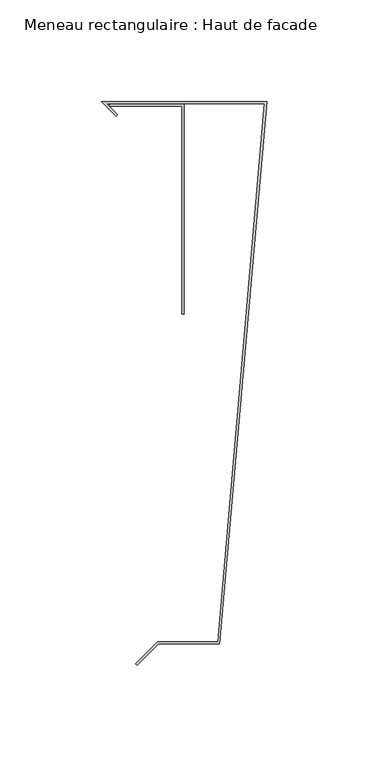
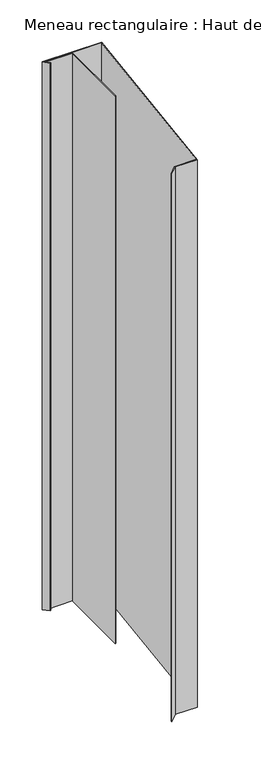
"""IFC4 building model written with IfcOpenShell, lengths in millimetres: member geometry, Meneau rectangulaire : Haut de facade."""

from ifc_helpers import new_model, si_unit, frame, origin, place, context, project, spatial, polyline, outline, extrude, source, transform, mapped, element, save


def meneau_rectangulaire_haut_de_facade_4f6a63c8(model_context):
    return source(origin(), model_context, "Body", "SweptSolid", [
        extrude(outline(polyline([(-24.0647895, -160.703755), (-1.0913085, 103.2), (-78.5857864, 103.2), (-73.2218254, 97.836039), (-73.9289322, 97.1289322), (-81.0, 104.2), (0.0, 104.2), (-23.1484584, -161.703755), (-53.1484584, -161.703755), (-63.7550601, -172.3103567), (-64.4621669, -171.6032499), (-53.5626719, -160.703755), (-24.0647895, -160.703755)])), frame((0.0, 0.0, -790.3759648), z_axis=(0.0, 0.0, 1.0), x_axis=(1.0, 0.0, 0.0)), (0.0, 0.0, 1.0), 790.3759648),
        extrude(outline(polyline([(-40.5477541, 102.9846816), (-40.5477541, 0.0384227), (-41.5477541, 0.0384227), (-41.5477541, 101.9846816), (-77.0752814, 101.9846816), (-77.0752814, 102.9846816), (-40.5477541, 102.9846816)])), frame((0.0, 0.0, -790.3759648), z_axis=(0.0, 0.0, 1.0), x_axis=(1.0, 0.0, 0.0)), (0.0, 0.0, 1.0), 790.3759648),
    ])


if __name__ == "__main__":
    model = new_model("IFC4")
    model_context = context("Model", 3, world=origin())
    ifc_project = project(units=[si_unit("LENGTHUNIT", "METRE", prefix="MILLI")], contexts=[model_context])
    site = spatial("IfcSite", under=ifc_project)
    building = spatial("IfcBuilding", under=site)
    placement = place(None, origin())
    meneau_rectangulaire_haut_de_facade_shape = meneau_rectangulaire_haut_de_facade_4f6a63c8(model_context)
    element("IfcMember", 1, ObjectType="Meneau rectangulaire : Haut de facade", at=placement, inside=building, context=model_context, shape_type="MappedRepresentation", body=[
        mapped(meneau_rectangulaire_haut_de_facade_shape, transform((0.0, 0.0, 0.0), x_axis=(1.0, 0.0, 0.0), y_axis=(0.0, 1.0, 0.0), z_axis=(0.0, 0.0, 1.0))),
    ])
    save(model, "model.ifc")
